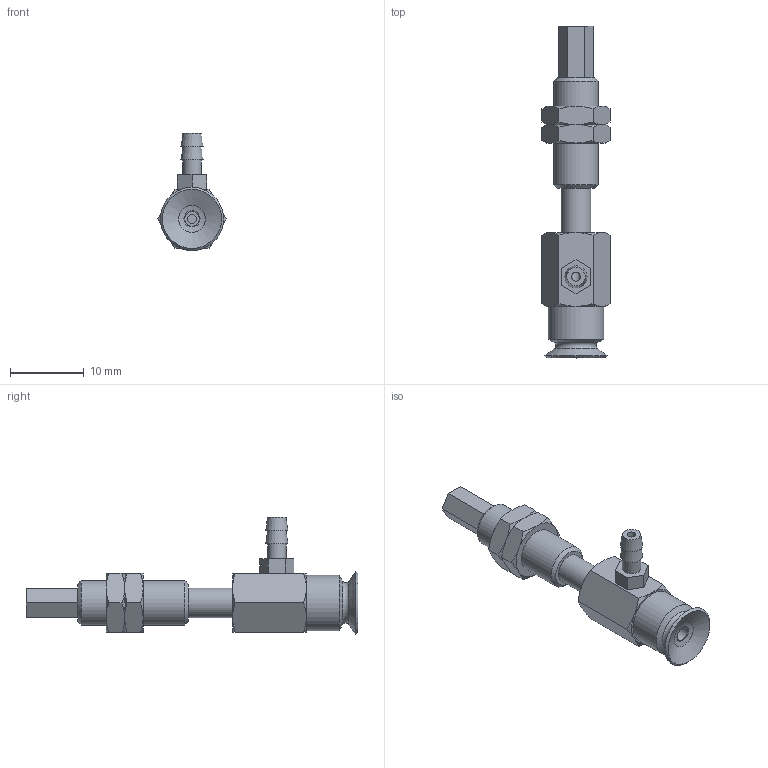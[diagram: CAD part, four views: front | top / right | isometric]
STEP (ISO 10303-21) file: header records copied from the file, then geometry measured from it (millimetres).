
FILE_DESCRIPTION(('STEP AP203'),'1');
FILE_NAME('-T.stp','2025-04-09T06:26:29',(' '),(' '),'Spatial InterOp 3D',' ',' ');
FILE_SCHEMA(('CONFIG_CONTROL_DESIGN'));
Length unit declared in the file: millimetre
Products named in the file (7): BNABPFYS-8A-6-※-T; CONNECTOR-8A-6; Nut-8A-6-s; NAPFTS-8A-6-FBODY; NAPFTS-8A-6-MBODY; BPFG-8A-※; T (2)
Assembly tree (7 placements, depth 2):
  BNABPFYS-8A-6-※-T
    CONNECTOR-8A-6
    Nut-8A-6-s  x2
    NAPFTS-8A-6-FBODY
    NAPFTS-8A-6-MBODY
    BPFG-8A-※
    T (2)
Bounding box: 9.24 x 45 x 15.9 mm (x, y, z)
Volume: 1567 mm3; surface area: 2437.4 mm2
Topology: 7 solids, 7 shells, 150 faces, 316 edges, 190 vertices
Faces by surface type: plane 68, cone 55, cylinder 18, torus 8, bspline 1
Full cylindrical faces by diameter (mm): 1.2 x2, 2 x1, 2.459 x2, 2.5 x1, 3 x2, 4 x4, 5.188 x2, 6 x3, 7.5 x1
Entity records: 3695 total; most frequent: CARTESIAN_POINT 854, DIRECTION 524, ORIENTED_EDGE 438, AXIS2_PLACEMENT_3D 225, EDGE_CURVE 219, EDGE_LOOP 190, VERTEX_POINT 155, FACE_OUTER_BOUND 153
